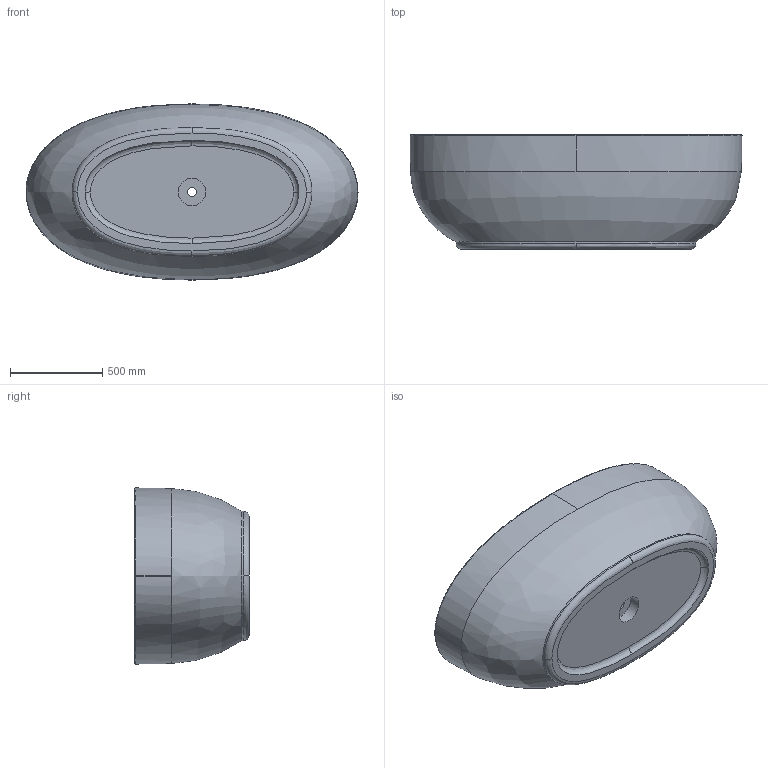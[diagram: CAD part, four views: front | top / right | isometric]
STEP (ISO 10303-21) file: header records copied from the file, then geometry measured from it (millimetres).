
FILE_DESCRIPTION (( 'STEP AP203' ), '1' );
FILE_NAME ('CLA 113.STEP', '2021-09-24T09:52:37', ( '' ), ( '' ), 'SwSTEP 2.0', 'SolidWorks 2021', '' );
FILE_SCHEMA (( 'CONFIG_CONTROL_DESIGN' ));
Length unit declared in the file: millimetre
Products named in the file (1): CLA 113
Bounding box: 1799.82 x 620 x 954.82 mm (x, y, z)
Volume: 395446822.6 mm3; surface area: 5981020.1 mm2
Topology: 1 solids, 2 shells, 58 faces, 133 edges, 81 vertices
Faces by surface type: bspline 46, plane 7, cylinder 3, torus 1, cone 1
Full cylindrical faces by diameter (mm): 45 x1, 48 x1, 150 x1
Entity records: 12534 total; most frequent: CARTESIAN_POINT 11511, ORIENTED_EDGE 240, EDGE_CURVE 120, DIRECTION 99, B_SPLINE_CURVE_WITH_KNOTS 78, VERTEX_POINT 77, EDGE_LOOP 71, FACE_OUTER_BOUND 64
